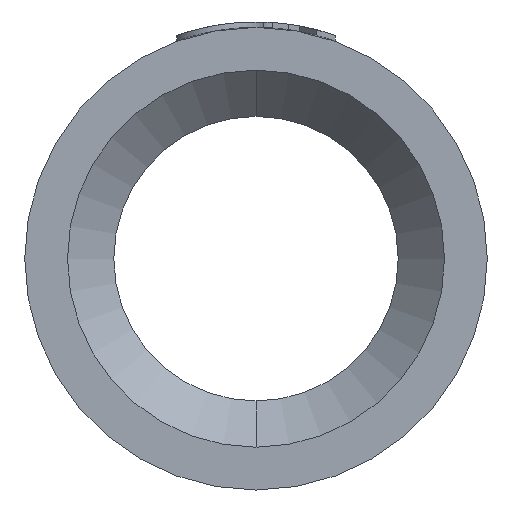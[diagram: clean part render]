
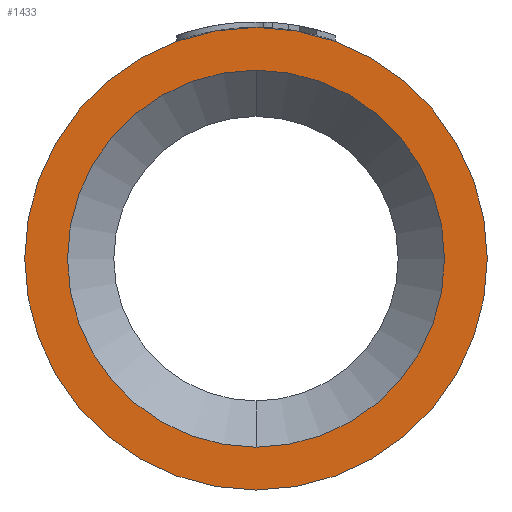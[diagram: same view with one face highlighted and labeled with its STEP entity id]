
A CAD part, left-side view. The second image highlights one B-rep face of the part: STEP entity #1433.
In plain terms, the highlighted planar face has unit normal (-1, 0, 0).
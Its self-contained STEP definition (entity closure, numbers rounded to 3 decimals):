
#47 = CARTESIAN_POINT ( 'NONE',  ( 0., 0., 20. ) ) ;
#131 = VERTEX_POINT ( 'NONE', #492 ) ;
#145 = VERTEX_POINT ( 'NONE', #47 ) ;
#267 = VERTEX_POINT ( 'NONE', #2648 ) ;
#319 = DIRECTION ( 'NONE',  ( 0., 0., 1. ) ) ;
#331 = DIRECTION ( 'NONE',  ( -1., 0., 0. ) ) ;
#354 = CARTESIAN_POINT ( 'NONE',  ( 0., 0., 0. ) ) ;
#363 = CARTESIAN_POINT ( 'NONE',  ( 0., 0., 0. ) ) ;
#492 = CARTESIAN_POINT ( 'NONE',  ( 0., 0., -20. ) ) ;
#513 = DIRECTION ( 'NONE',  ( 0., 0., 1. ) ) ;
#693 = CIRCLE ( 'NONE', #2107, 20. ) ;
#712 = DIRECTION ( 'NONE',  ( -1., 0., 0. ) ) ;
#728 = CARTESIAN_POINT ( 'NONE',  ( 0., 0., -16.3 ) ) ;
#756 = FACE_OUTER_BOUND ( 'NONE', #2039, .T. ) ;
#791 = DIRECTION ( 'NONE',  ( 0., 0., 1. ) ) ;
#795 = CIRCLE ( 'NONE', #997, 16.3 ) ;
#807 = DIRECTION ( 'NONE',  ( -1., 0., 0. ) ) ;
#997 = AXIS2_PLACEMENT_3D ( 'NONE', #354, #331, #319 ) ;
#1009 = CARTESIAN_POINT ( 'NONE',  ( 0., 0., 0. ) ) ;
#1101 = VERTEX_POINT ( 'NONE', #728 ) ;
#1256 = AXIS2_PLACEMENT_3D ( 'NONE', #363, #712, #513 ) ;
#1274 = EDGE_LOOP ( 'NONE', ( #2444, #2292 ) ) ;
#1290 = FACE_BOUND ( 'NONE', #1274, .T. ) ;
#1414 = EDGE_CURVE ( 'NONE', #267, #1101, #1718, .T. ) ;
#1433 = ADVANCED_FACE ( 'NONE', ( #1290, #756 ), #2144, .F. ) ;
#1461 = EDGE_CURVE ( 'NONE', #131, #145, #693, .T. ) ;
#1718 = CIRCLE ( 'NONE', #2135, 16.3 ) ;
#1754 = AXIS2_PLACEMENT_3D ( 'NONE', #2646, #2167, #2156 ) ;
#2020 = ORIENTED_EDGE ( 'NONE', *, *, #2134, .T. ) ;
#2039 = EDGE_LOOP ( 'NONE', ( #2020, #2481 ) ) ;
#2052 = CIRCLE ( 'NONE', #1256, 20. ) ;
#2107 = AXIS2_PLACEMENT_3D ( 'NONE', #2482, #2449, #2438 ) ;
#2134 = EDGE_CURVE ( 'NONE', #145, #131, #2052, .T. ) ;
#2135 = AXIS2_PLACEMENT_3D ( 'NONE', #1009, #807, #791 ) ;
#2144 = PLANE ( 'NONE',  #1754 ) ;
#2156 = DIRECTION ( 'NONE',  ( 0., 0., -1. ) ) ;
#2167 = DIRECTION ( 'NONE',  ( 1., 0., 0. ) ) ;
#2292 = ORIENTED_EDGE ( 'NONE', *, *, #2461, .F. ) ;
#2438 = DIRECTION ( 'NONE',  ( 0., 0., 1. ) ) ;
#2444 = ORIENTED_EDGE ( 'NONE', *, *, #1414, .F. ) ;
#2449 = DIRECTION ( 'NONE',  ( -1., 0., 0. ) ) ;
#2461 = EDGE_CURVE ( 'NONE', #1101, #267, #795, .T. ) ;
#2481 = ORIENTED_EDGE ( 'NONE', *, *, #1461, .T. ) ;
#2482 = CARTESIAN_POINT ( 'NONE',  ( 0., 0., 0. ) ) ;
#2646 = CARTESIAN_POINT ( 'NONE',  ( 0., 16.3, 0. ) ) ;
#2648 = CARTESIAN_POINT ( 'NONE',  ( 0., 0., 16.3 ) ) ;
